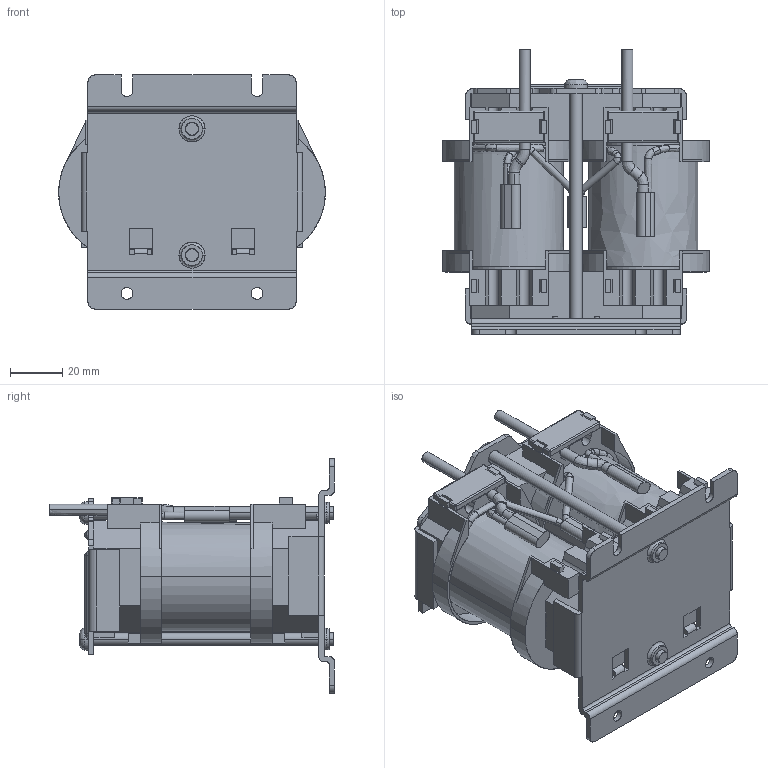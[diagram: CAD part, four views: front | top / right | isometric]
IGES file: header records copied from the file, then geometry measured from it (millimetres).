
Start section: SolidWorks IGES file using analytic representation for surfaces
Global section: file name: \\10.106.230.1\r&d file\05_COMP\02_Mechanical\10_Others\PV_RT 81\网络用3D模型\立式\网络用模型\3KW_P_DCL.IGS; native system: SolidWorks 2009; preprocessor: SolidWorks 2009; author: 钱雅婧,,1; organization: 1; date: 120508.141940; units: millimetre
Bounding box: 102.5 x 109.5 x 90 mm (x, y, z)
Surface area: 102514.3 mm2 (no closed solid volume)
Topology: 0 solids, 0 shells, 737 faces, 6422 edges, 6406 vertices
Faces by surface type: bspline 480, revolution 257
